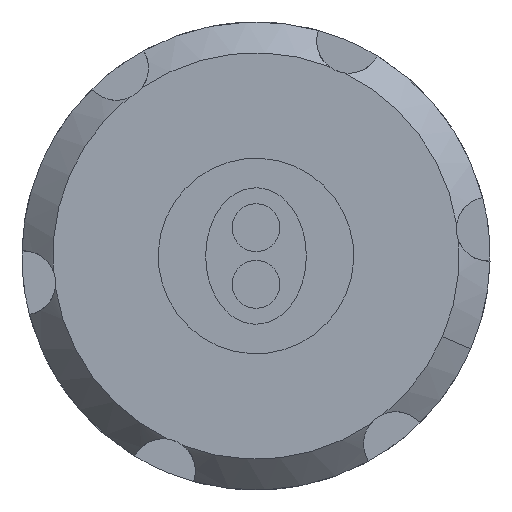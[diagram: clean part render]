
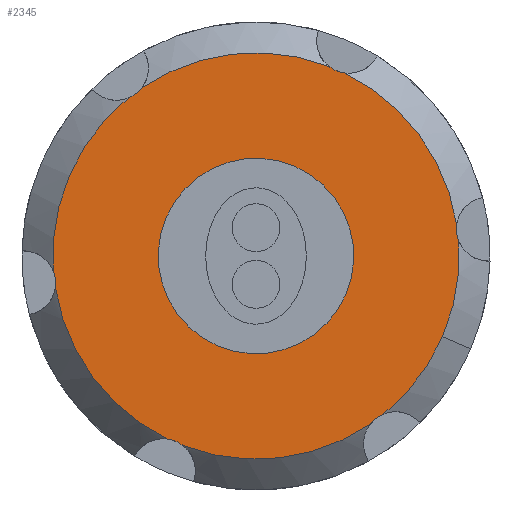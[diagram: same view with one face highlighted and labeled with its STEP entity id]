
A CAD part, left-side view. The second image highlights one B-rep face of the part: STEP entity #2345.
In plain terms, the highlighted planar face has unit normal (-1, 0, 0).
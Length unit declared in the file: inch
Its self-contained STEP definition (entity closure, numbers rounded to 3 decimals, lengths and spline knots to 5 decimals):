
#63 = DIRECTION ( 'NONE',  ( 0., 0.918, 0.397 ) ) ;
#69 = DIRECTION ( 'NONE',  ( -1., 0., 0. ) ) ;
#70 = CARTESIAN_POINT ( 'NONE',  ( -1.13039, -0.00366, 0. ) ) ;
#77 = CARTESIAN_POINT ( 'NONE',  ( -1.13039, -0.39756, 0.0294 ) ) ;
#84 = CARTESIAN_POINT ( 'NONE',  ( -1.13039, 0.39025, -0.0294 ) ) ;
#86 = CARTESIAN_POINT ( 'NONE',  ( -1.13039, -0.00366, 0. ) ) ;
#122 = DIRECTION ( 'NONE',  ( -1., 0., 0. ) ) ;
#124 = DIRECTION ( 'NONE',  ( 0., 0.918, 0.397 ) ) ;
#161 = DIRECTION ( 'NONE',  ( 0., 0.918, 0.397 ) ) ;
#166 = CARTESIAN_POINT ( 'NONE',  ( -1.13039, -0.00366, 0. ) ) ;
#173 = DIRECTION ( 'NONE',  ( 0., 0.918, 0.397 ) ) ;
#196 = DIRECTION ( 'NONE',  ( 0., 0.918, 0.397 ) ) ;
#205 = DIRECTION ( 'NONE',  ( -1., 0., 0. ) ) ;
#206 = CARTESIAN_POINT ( 'NONE',  ( -1.13039, -0.27516, -0.36512 ) ) ;
#209 = CARTESIAN_POINT ( 'NONE',  ( -1.13039, -0.00366, 0. ) ) ;
#214 = DIRECTION ( 'NONE',  ( 0., 0.918, 0.397 ) ) ;
#229 = DIRECTION ( 'NONE',  ( 0., 0.918, 0.397 ) ) ;
#230 = DIRECTION ( 'NONE',  ( -1., 0., 0. ) ) ;
#233 = DIRECTION ( 'NONE',  ( -1., 0., 0. ) ) ;
#240 = DIRECTION ( 'NONE',  ( 0., 0.918, 0.397 ) ) ;
#245 = CARTESIAN_POINT ( 'NONE',  ( -1.13039, 0.1768, -0.41768 ) ) ;
#246 = CARTESIAN_POINT ( 'NONE',  ( -1.13039, 0.4483, -0.05256 ) ) ;
#247 = DIRECTION ( 'NONE',  ( -1., 0., 0. ) ) ;
#248 = DIRECTION ( 'NONE',  ( 0., 0.918, 0.397 ) ) ;
#264 = DIRECTION ( 'NONE',  ( -1., 0., 0. ) ) ;
#288 = CARTESIAN_POINT ( 'NONE',  ( -1.13039, -0.18411, 0.41768 ) ) ;
#314 = CARTESIAN_POINT ( 'NONE',  ( -1.13039, -0.00366, 0. ) ) ;
#332 = CARTESIAN_POINT ( 'NONE',  ( -1.13039, 0.17076, 0.07536 ) ) ;
#338 = DIRECTION ( 'NONE',  ( -1., 0., 0. ) ) ;
#339 = DIRECTION ( 'NONE',  ( 0., 0.918, 0.397 ) ) ;
#362 = CARTESIAN_POINT ( 'NONE',  ( -1.13039, 0.38648, -0.06179 ) ) ;
#366 = DIRECTION ( 'NONE',  ( -1., 0., 0. ) ) ;
#375 = CARTESIAN_POINT ( 'NONE',  ( -1.13039, -0.22607, -0.32643 ) ) ;
#383 = CARTESIAN_POINT ( 'NONE',  ( -1.13039, -0.17515, 0.35583 ) ) ;
#397 = CARTESIAN_POINT ( 'NONE',  ( -1.13039, -0.3938, 0.06179 ) ) ;
#420 = CARTESIAN_POINT ( 'NONE',  ( -1.13039, 0.21875, 0.32643 ) ) ;
#426 = DIRECTION ( 'NONE',  ( 0., 0.918, 0.397 ) ) ;
#433 = DIRECTION ( 'NONE',  ( -1., 0., 0. ) ) ;
#434 = CARTESIAN_POINT ( 'NONE',  ( -1.13039, -0.00366, 0. ) ) ;
#458 = CARTESIAN_POINT ( 'NONE',  ( -1.13039, 0.24492, 0.30698 ) ) ;
#504 = CARTESIAN_POINT ( 'NONE',  ( -1.13039, -0.00366, 0. ) ) ;
#505 = CARTESIAN_POINT ( 'NONE',  ( -1.13039, -0.36626, -0.15666 ) ) ;
#515 = CARTESIAN_POINT ( 'NONE',  ( -1.13039, -0.00366, 0. ) ) ;
#520 = CARTESIAN_POINT ( 'NONE',  ( -1.13039, 0.1379, -0.36876 ) ) ;
#546 = DIRECTION ( 'NONE',  ( -1., 0., 0. ) ) ;
#549 = CARTESIAN_POINT ( 'NONE',  ( -1.13039, 0.26784, 0.36512 ) ) ;
#565 = CARTESIAN_POINT ( 'NONE',  ( -1.13039, -0.25223, -0.30698 ) ) ;
#577 = CARTESIAN_POINT ( 'NONE',  ( -1.13039, -0.14522, 0.36876 ) ) ;
#590 = DIRECTION ( 'NONE',  ( 0., 0.918, 0.397 ) ) ;
#619 = DIRECTION ( 'NONE',  ( -1., 0., 0. ) ) ;
#628 = CARTESIAN_POINT ( 'NONE',  ( -1.13039, -0.17808, -0.07536 ) ) ;
#641 = DIRECTION ( 'NONE',  ( -1., 0., 0. ) ) ;
#665 = CARTESIAN_POINT ( 'NONE',  ( -1.13039, 0.16783, -0.35583 ) ) ;
#683 = DIRECTION ( 'NONE',  ( 0., 0.918, 0.397 ) ) ;
#712 = CIRCLE ( 'NONE', #2641, 0.19 ) ;
#717 = CIRCLE ( 'NONE', #2643, 0.0625 ) ;
#795 = FACE_OUTER_BOUND ( 'NONE', #1421, .T. ) ;
#871 = ORIENTED_EDGE ( 'NONE', *, *, #1288, .T. ) ;
#884 = VERTEX_POINT ( 'NONE', #332 ) ;
#886 = VERTEX_POINT ( 'NONE', #628 ) ;
#890 = DIRECTION ( 'NONE',  ( 0., 0.918, 0.397 ) ) ;
#891 = DIRECTION ( 'NONE',  ( -1., 0., 0. ) ) ;
#892 = CARTESIAN_POINT ( 'NONE',  ( -1.13039, -0.45561, 0.05256 ) ) ;
#899 = DIRECTION ( 'NONE',  ( 0., 0.918, 0.397 ) ) ;
#900 = DIRECTION ( 'NONE',  ( -1., 0., 0. ) ) ;
#902 = CARTESIAN_POINT ( 'NONE',  ( -1.13039, -0.00366, 0. ) ) ;
#909 = PLANE ( 'NONE',  #2541 ) ;
#967 = CARTESIAN_POINT ( 'NONE',  ( -1.13039, 0.0717, -0.17442 ) ) ;
#996 = DIRECTION ( 'NONE',  ( 0., 0.918, 0.397 ) ) ;
#997 = DIRECTION ( 'NONE',  ( -1., 0., 0. ) ) ;
#1066 = EDGE_LOOP ( 'NONE', ( #1502, #1516 ) ) ;
#1107 = EDGE_CURVE ( 'NONE', #886, #884, #712, .T. ) ;
#1112 = EDGE_CURVE ( 'NONE', #1451, #1454, #717, .T. ) ;
#1120 = CIRCLE ( 'NONE', #2680, 0.0625 ) ;
#1123 = CIRCLE ( 'NONE', #2683, 0.395 ) ;
#1125 = CIRCLE ( 'NONE', #2682, 0.0625 ) ;
#1129 = CIRCLE ( 'NONE', #2686, 0.395 ) ;
#1178 = CIRCLE ( 'NONE', #2692, 0.395 ) ;
#1183 = CIRCLE ( 'NONE', #2704, 0.395 ) ;
#1202 = CIRCLE ( 'NONE', #2756, 0.0625 ) ;
#1223 = EDGE_CURVE ( 'NONE', #1451, #2138, #2084, .T. ) ;
#1238 = EDGE_CURVE ( 'NONE', #884, #886, #2098, .T. ) ;
#1239 = EDGE_CURVE ( 'NONE', #2139, #2141, #2108, .T. ) ;
#1250 = EDGE_CURVE ( 'NONE', #2139, #1665, #2109, .T. ) ;
#1261 = EDGE_CURVE ( 'NONE', #2137, #2138, #1120, .T. ) ;
#1264 = EDGE_CURVE ( 'NONE', #2142, #2144, #1125, .T. ) ;
#1265 = EDGE_CURVE ( 'NONE', #2137, #2140, #1123, .T. ) ;
#1271 = EDGE_CURVE ( 'NONE', #2136, #2141, #1129, .T. ) ;
#1288 = EDGE_CURVE ( 'NONE', #1442, #2144, #1178, .T. ) ;
#1290 = EDGE_CURVE ( 'NONE', #1665, #1444, #1183, .T. ) ;
#1306 = EDGE_CURVE ( 'NONE', #2136, #2140, #1202, .T. ) ;
#1330 = ORIENTED_EDGE ( 'NONE', *, *, #1250, .T. ) ;
#1331 = ORIENTED_EDGE ( 'NONE', *, *, #1239, .F. ) ;
#1332 = ORIENTED_EDGE ( 'NONE', *, *, #1271, .T. ) ;
#1337 = ORIENTED_EDGE ( 'NONE', *, *, #1290, .T. ) ;
#1341 = ORIENTED_EDGE ( 'NONE', *, *, #1306, .F. ) ;
#1360 = ORIENTED_EDGE ( 'NONE', *, *, #1223, .T. ) ;
#1421 = EDGE_LOOP ( 'NONE', ( #1486, #1360, #2190, #1607, #1341, #1332, #1331, #1330, #1337, #1518, #871, #1650, #1613 ) ) ;
#1442 = VERTEX_POINT ( 'NONE', #397 ) ;
#1444 = VERTEX_POINT ( 'NONE', #77 ) ;
#1451 = VERTEX_POINT ( 'NONE', #458 ) ;
#1454 = VERTEX_POINT ( 'NONE', #420 ) ;
#1486 = ORIENTED_EDGE ( 'NONE', *, *, #1112, .F. ) ;
#1502 = ORIENTED_EDGE ( 'NONE', *, *, #1238, .F. ) ;
#1516 = ORIENTED_EDGE ( 'NONE', *, *, #1107, .F. ) ;
#1518 = ORIENTED_EDGE ( 'NONE', *, *, #2621, .F. ) ;
#1607 = ORIENTED_EDGE ( 'NONE', *, *, #1265, .T. ) ;
#1613 = ORIENTED_EDGE ( 'NONE', *, *, #2624, .T. ) ;
#1650 = ORIENTED_EDGE ( 'NONE', *, *, #1264, .F. ) ;
#1665 = VERTEX_POINT ( 'NONE', #505 ) ;
#2084 = CIRCLE ( 'NONE', #2664, 0.395 ) ;
#2098 = CIRCLE ( 'NONE', #2668, 0.19 ) ;
#2108 = CIRCLE ( 'NONE', #2669, 0.0625 ) ;
#2109 = CIRCLE ( 'NONE', #2674, 0.395 ) ;
#2136 = VERTEX_POINT ( 'NONE', #520 ) ;
#2137 = VERTEX_POINT ( 'NONE', #362 ) ;
#2138 = VERTEX_POINT ( 'NONE', #84 ) ;
#2139 = VERTEX_POINT ( 'NONE', #565 ) ;
#2140 = VERTEX_POINT ( 'NONE', #665 ) ;
#2141 = VERTEX_POINT ( 'NONE', #375 ) ;
#2142 = VERTEX_POINT ( 'NONE', #577 ) ;
#2144 = VERTEX_POINT ( 'NONE', #383 ) ;
#2190 = ORIENTED_EDGE ( 'NONE', *, *, #1261, .F. ) ;
#2345 = ADVANCED_FACE ( 'NONE', ( #795, #2414 ), #909, .T. ) ;
#2414 = FACE_BOUND ( 'NONE', #1066, .T. ) ;
#2438 = CIRCLE ( 'NONE', #2557, 0.0625 ) ;
#2441 = CIRCLE ( 'NONE', #2565, 0.395 ) ;
#2541 = AXIS2_PLACEMENT_3D ( 'NONE', #967, #997, #996 ) ;
#2557 = AXIS2_PLACEMENT_3D ( 'NONE', #892, #891, #890 ) ;
#2565 = AXIS2_PLACEMENT_3D ( 'NONE', #902, #900, #899 ) ;
#2621 = EDGE_CURVE ( 'NONE', #1442, #1444, #2438, .T. ) ;
#2624 = EDGE_CURVE ( 'NONE', #2142, #1454, #2441, .T. ) ;
#2641 = AXIS2_PLACEMENT_3D ( 'NONE', #515, #546, #590 ) ;
#2643 = AXIS2_PLACEMENT_3D ( 'NONE', #549, #641, #683 ) ;
#2664 = AXIS2_PLACEMENT_3D ( 'NONE', #504, #264, #173 ) ;
#2668 = AXIS2_PLACEMENT_3D ( 'NONE', #209, #366, #214 ) ;
#2669 = AXIS2_PLACEMENT_3D ( 'NONE', #206, #205, #196 ) ;
#2674 = AXIS2_PLACEMENT_3D ( 'NONE', #86, #230, #229 ) ;
#2680 = AXIS2_PLACEMENT_3D ( 'NONE', #246, #247, #248 ) ;
#2682 = AXIS2_PLACEMENT_3D ( 'NONE', #288, #233, #240 ) ;
#2683 = AXIS2_PLACEMENT_3D ( 'NONE', #314, #122, #426 ) ;
#2686 = AXIS2_PLACEMENT_3D ( 'NONE', #434, #433, #124 ) ;
#2692 = AXIS2_PLACEMENT_3D ( 'NONE', #166, #338, #339 ) ;
#2704 = AXIS2_PLACEMENT_3D ( 'NONE', #70, #69, #161 ) ;
#2756 = AXIS2_PLACEMENT_3D ( 'NONE', #245, #619, #63 ) ;
